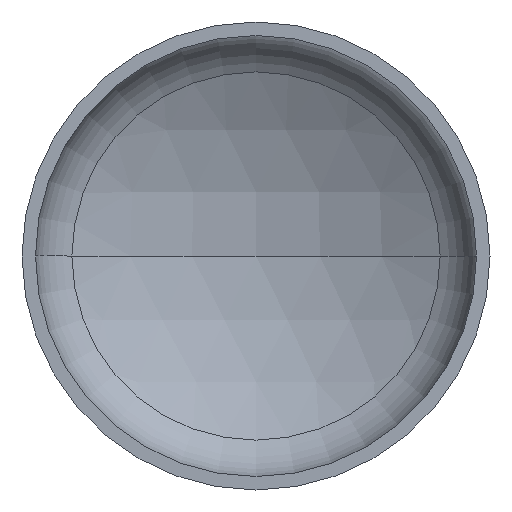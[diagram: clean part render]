
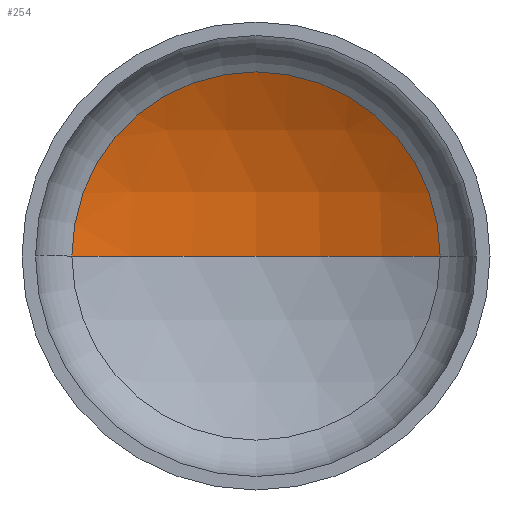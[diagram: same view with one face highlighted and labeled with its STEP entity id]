
A CAD part, front view. The second image highlights one B-rep face of the part: STEP entity #254.
In plain terms, the highlighted spherical face has radius 1360 mm.
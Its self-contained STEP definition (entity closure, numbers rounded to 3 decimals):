
#4 = AXIS2_PLACEMENT_3D ( 'NONE', #143, #252, #79 ) ;
#14 = AXIS2_PLACEMENT_3D ( 'NONE', #98, #218, #359 ) ;
#18 = DIRECTION ( 'NONE',  ( 0., 0., -1. ) ) ;
#21 = FACE_OUTER_BOUND ( 'NONE', #205, .T. ) ;
#22 = VERTEX_POINT ( 'NONE', #228 ) ;
#29 = AXIS2_PLACEMENT_3D ( 'NONE', #158, #339, #384 ) ;
#68 = DIRECTION ( 'NONE',  ( -1., 0., 0. ) ) ;
#79 = DIRECTION ( 'NONE',  ( 1., 0., 0. ) ) ;
#98 = CARTESIAN_POINT ( 'NONE',  ( 0., 376.381, 0. ) ) ;
#143 = CARTESIAN_POINT ( 'NONE',  ( 0., -807.768, 0. ) ) ;
#148 = ORIENTED_EDGE ( 'NONE', *, *, #380, .F. ) ;
#158 = CARTESIAN_POINT ( 'NONE',  ( 0., -807.768, 0. ) ) ;
#159 = CIRCLE ( 'NONE', #191, 1360. ) ;
#181 = CIRCLE ( 'NONE', #14, 668.873 ) ;
#191 = AXIS2_PLACEMENT_3D ( 'NONE', #227, #18, #68 ) ;
#205 = EDGE_LOOP ( 'NONE', ( #148, #226, #325 ) ) ;
#218 = DIRECTION ( 'NONE',  ( 0., -1., 0. ) ) ;
#219 = CARTESIAN_POINT ( 'NONE',  ( -668.873, 376.381, 0. ) ) ;
#226 = ORIENTED_EDGE ( 'NONE', *, *, #393, .T. ) ;
#227 = CARTESIAN_POINT ( 'NONE',  ( 0., -807.768, 0. ) ) ;
#228 = CARTESIAN_POINT ( 'NONE',  ( 668.873, 376.381, 0. ) ) ;
#252 = DIRECTION ( 'NONE',  ( 0., 0., 1. ) ) ;
#254 = ADVANCED_FACE ( 'NONE', ( #21 ), #351, .F. ) ;
#281 = CARTESIAN_POINT ( 'NONE',  ( 0., 552.232, 0. ) ) ;
#294 = VERTEX_POINT ( 'NONE', #219 ) ;
#325 = ORIENTED_EDGE ( 'NONE', *, *, #337, .T. ) ;
#337 = EDGE_CURVE ( 'NONE', #22, #294, #181, .T. ) ;
#339 = DIRECTION ( 'NONE',  ( 0., 0., -1. ) ) ;
#351 = SPHERICAL_SURFACE ( 'NONE', #29, 1360. ) ;
#359 = DIRECTION ( 'NONE',  ( 1., 0., 0. ) ) ;
#380 = EDGE_CURVE ( 'NONE', #406, #294, #385, .T. ) ;
#384 = DIRECTION ( 'NONE',  ( -1., 0., 0. ) ) ;
#385 = CIRCLE ( 'NONE', #4, 1360. ) ;
#393 = EDGE_CURVE ( 'NONE', #406, #22, #159, .T. ) ;
#406 = VERTEX_POINT ( 'NONE', #281 ) ;
